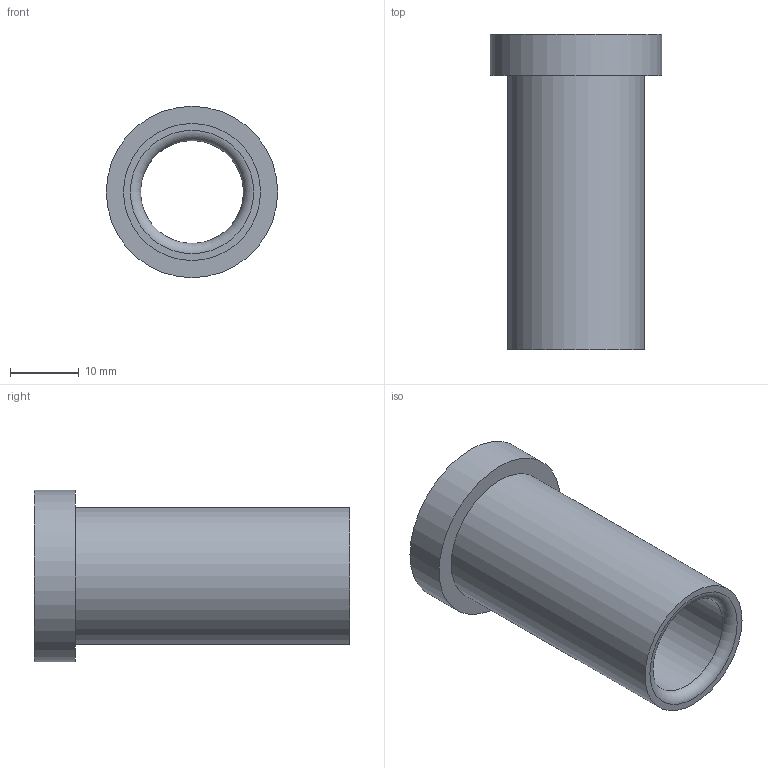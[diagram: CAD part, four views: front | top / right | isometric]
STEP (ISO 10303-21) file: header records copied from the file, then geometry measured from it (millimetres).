
FILE_DESCRIPTION(/* description */ ('STEP AP214'),/* implementation_level */ '2;1');
FILE_NAME(/* name */ '03_12_17843',/* time_stamp */ '2023-06-15T11:35:26+02:00',/* author */ ('License CC BY-ND 4.0'),/* organization */ ('CADENAS'),/* preprocessor_version */ 'ST-DEVELOPER v19.3',/* originating_system */ 'PARTsolutions',/* authorisation */ ' ');
FILE_SCHEMA (('AUTOMOTIVE_DESIGN {1 0 10303 214 3 1 1}'));
Length unit declared in the file: millimetre
Products named in the file (1): VA_Bushing_17843
Bounding box: 25 x 46 x 25 mm (x, y, z)
Volume: 7201.6 mm3; surface area: 5738 mm2
Topology: 1 solids, 1 shells, 10 faces, 16 edges, 10 vertices
Faces by surface type: cylinder 4, plane 4, torus 2
Full cylindrical faces by diameter (mm): 15 x1, 15.6 x1, 20 x1, 25 x1
Entity records: 302 total; most frequent: DIRECTION 42, CARTESIAN_POINT 31, AXIS2_PLACEMENT_3D 21, ORIENTED_EDGE 20, EDGE_LOOP 20, FACE_BOUND 20, EDGE_CURVE 10, VERTEX_POINT 10
